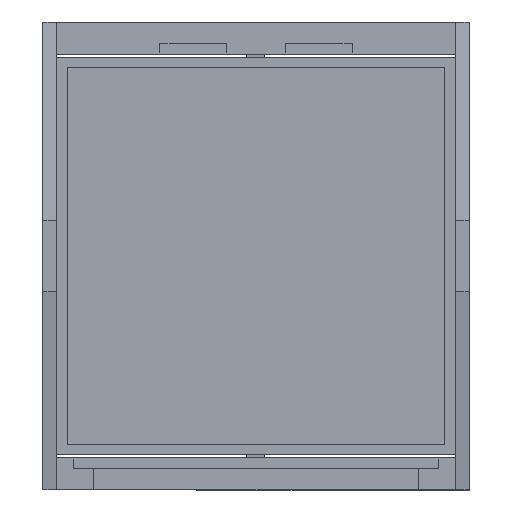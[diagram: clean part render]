
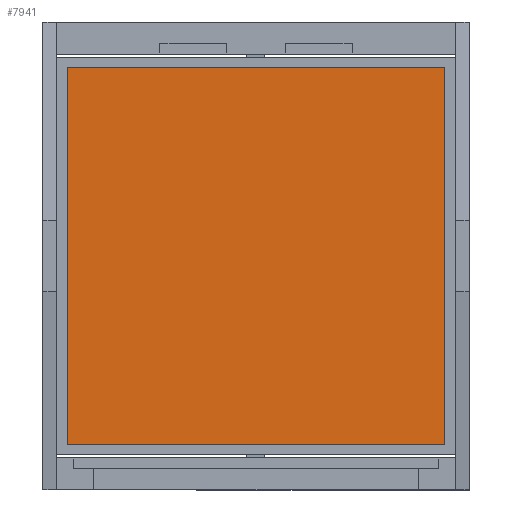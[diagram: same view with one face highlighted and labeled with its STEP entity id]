
A CAD part, front view. The second image highlights one B-rep face of the part: STEP entity #7941.
In plain terms, the highlighted planar face has unit normal (0, -1, 0).
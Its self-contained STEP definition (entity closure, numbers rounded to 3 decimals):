
#35 = CARTESIAN_POINT ( 'NONE',  ( -29.237, -5.415, -11.533 ) ) ;
#132 = LINE ( 'NONE', #4669, #3925 ) ;
#251 = DIRECTION ( 'NONE',  ( -1., 0., 0. ) ) ;
#335 = FACE_OUTER_BOUND ( 'NONE', #1672, .T. ) ;
#365 = EDGE_CURVE ( 'NONE', #3262, #542, #132, .T. ) ;
#420 = VECTOR ( 'NONE', #6968, 1000. ) ;
#542 = VERTEX_POINT ( 'NONE', #5098 ) ;
#1212 = CARTESIAN_POINT ( 'NONE',  ( -29.237, -5.415, 28.467 ) ) ;
#1285 = ORIENTED_EDGE ( 'NONE', *, *, #6960, .F. ) ;
#1672 = EDGE_LOOP ( 'NONE', ( #8210, #4506, #1285, #6259 ) ) ;
#2646 = PLANE ( 'NONE',  #4586 ) ;
#2978 = LINE ( 'NONE', #35, #5370 ) ;
#3262 = VERTEX_POINT ( 'NONE', #8688 ) ;
#3471 = EDGE_CURVE ( 'NONE', #542, #8741, #8301, .T. ) ;
#3861 = CARTESIAN_POINT ( 'NONE',  ( -29.237, -5.415, 28.467 ) ) ;
#3925 = VECTOR ( 'NONE', #8383, 1000. ) ;
#4011 = CARTESIAN_POINT ( 'NONE',  ( 10.763, -5.415, -11.533 ) ) ;
#4180 = DIRECTION ( 'NONE',  ( 0., 0., 1. ) ) ;
#4506 = ORIENTED_EDGE ( 'NONE', *, *, #7152, .F. ) ;
#4586 = AXIS2_PLACEMENT_3D ( 'NONE', #1212, #8557, #4180 ) ;
#4669 = CARTESIAN_POINT ( 'NONE',  ( -29.237, -5.415, -11.533 ) ) ;
#4727 = LINE ( 'NONE', #4011, #420 ) ;
#5098 = CARTESIAN_POINT ( 'NONE',  ( -29.237, -5.415, 28.467 ) ) ;
#5228 = CARTESIAN_POINT ( 'NONE',  ( 10.763, -5.415, -11.533 ) ) ;
#5370 = VECTOR ( 'NONE', #251, 1000. ) ;
#6259 = ORIENTED_EDGE ( 'NONE', *, *, #3471, .F. ) ;
#6533 = VERTEX_POINT ( 'NONE', #5228 ) ;
#6819 = DIRECTION ( 'NONE',  ( 1., 0., 0. ) ) ;
#6960 = EDGE_CURVE ( 'NONE', #8741, #6533, #4727, .T. ) ;
#6968 = DIRECTION ( 'NONE',  ( 0., 0., -1. ) ) ;
#7061 = VECTOR ( 'NONE', #6819, 1000. ) ;
#7152 = EDGE_CURVE ( 'NONE', #6533, #3262, #2978, .T. ) ;
#7390 = CARTESIAN_POINT ( 'NONE',  ( 10.763, -5.415, 28.467 ) ) ;
#7941 = ADVANCED_FACE ( 'NONE', ( #335 ), #2646, .F. ) ;
#8210 = ORIENTED_EDGE ( 'NONE', *, *, #365, .F. ) ;
#8301 = LINE ( 'NONE', #3861, #7061 ) ;
#8383 = DIRECTION ( 'NONE',  ( 0., 0., 1. ) ) ;
#8557 = DIRECTION ( 'NONE',  ( 0., 1., 0. ) ) ;
#8688 = CARTESIAN_POINT ( 'NONE',  ( -29.237, -5.415, -11.533 ) ) ;
#8741 = VERTEX_POINT ( 'NONE', #7390 ) ;
